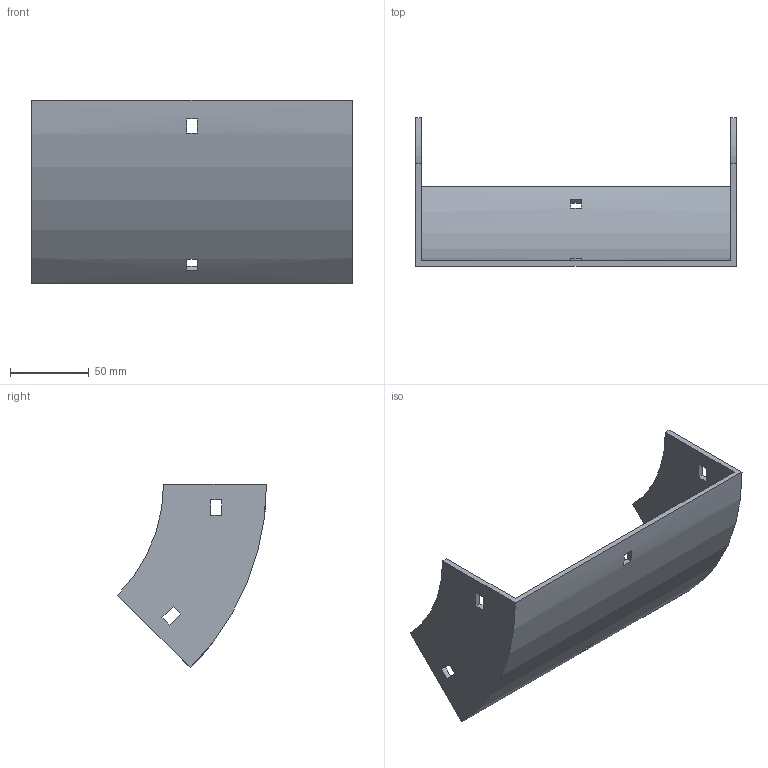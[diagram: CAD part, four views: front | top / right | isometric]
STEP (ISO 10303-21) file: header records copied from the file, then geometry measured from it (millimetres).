
FILE_DESCRIPTION (( 'STEP AP214' ), '1' );
FILE_NAME ('31B1H200.step', '2025-02-21T09:47:12', ( '' ), ( '' ), 'SwSTEP 2.0', 'SolidWorks 2023', '' );
FILE_SCHEMA (( 'AUTOMOTIVE_DESIGN' ));
Length unit declared in the file: millimetre
Products named in the file (1): 31B1H200
Bounding box: 204 x 94.79 x 117.03 mm (x, y, z)
Volume: 135088.2 mm3; surface area: 80742.8 mm2
Topology: 1 solids, 1 shells, 34 faces, 96 edges, 64 vertices
Faces by surface type: plane 30, cylinder 4
Entity records: 1143 total; most frequent: CARTESIAN_POINT 195, ORIENTED_EDGE 192, DIRECTION 182, EDGE_CURVE 96, LINE 80, VECTOR 80, VERTEX_POINT 64, AXIS2_PLACEMENT_3D 51
